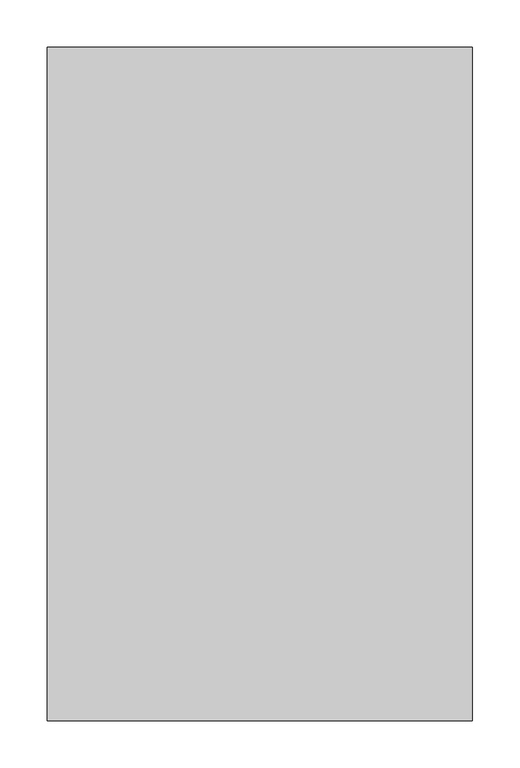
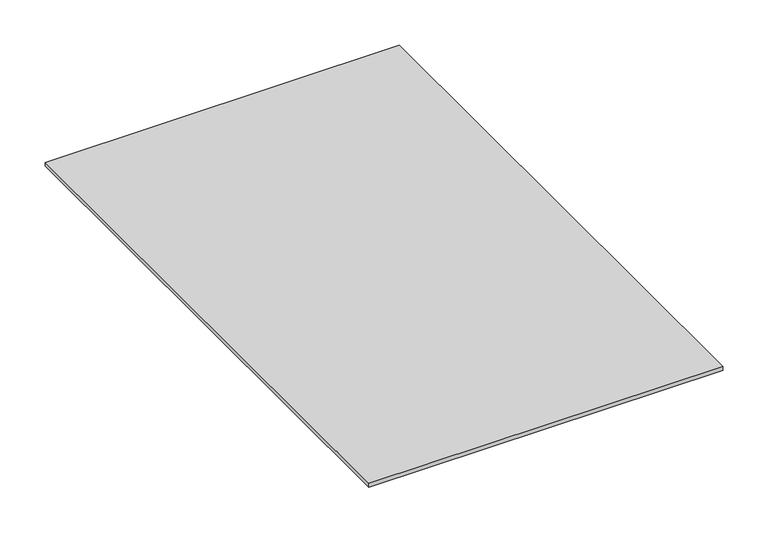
"""IFC4 building model written with IfcOpenShell, lengths in millimetres: valve geometry, Superpipe Manifold Cabinet door : Superpipe Manifold Cabinet door-3Way."""

from ifc_helpers import new_model, si_unit, origin, origin_with_axes, place, context, project, spatial, polyline, outline, extrude, source, transform, mapped, element, save


def valve_1bf73670(model_context):
    return source(origin(), model_context, "Body", "SweptSolid", [
        extrude(outline(polyline([(225.0, 356.5), (225.0, -356.5), (-225.0, -356.5), (-225.0, 356.5), (225.0, 356.5)])), origin_with_axes(), (0.0, 0.0, 1.0), 5.0),
    ])


if __name__ == "__main__":
    model = new_model("IFC4")
    model_context = context("Model", 3, world=origin())
    ifc_project = project(units=[si_unit("LENGTHUNIT", "METRE", prefix="MILLI")], contexts=[model_context])
    site = spatial("IfcSite", under=ifc_project)
    building = spatial("IfcBuilding", under=site)
    placement = place(None, origin())
    valve_shape = valve_1bf73670(model_context)
    element("IfcValve", 1, ObjectType="Superpipe Manifold Cabinet door : Superpipe Manifold Cabinet door-3Way", at=placement, inside=building, context=model_context, shape_type="MappedRepresentation", body=[
        mapped(valve_shape, transform((0.0, 0.0, 0.0), x_axis=(1.0, 0.0, 0.0), y_axis=(0.0, 1.0, 0.0), z_axis=(0.0, 0.0, 1.0))),
    ])
    save(model, "model.ifc")
